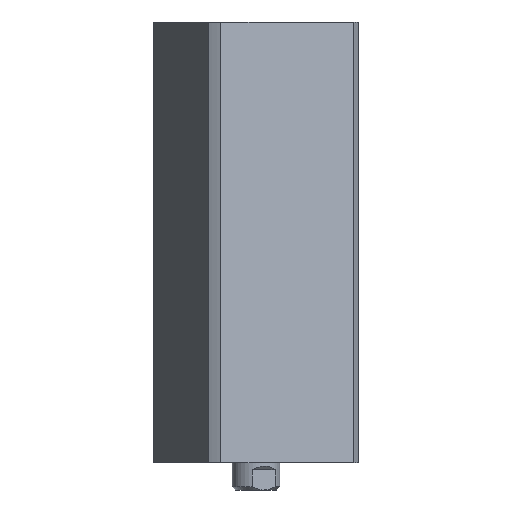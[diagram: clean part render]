
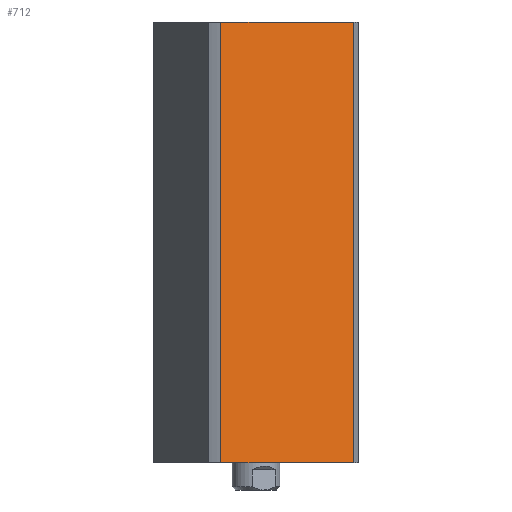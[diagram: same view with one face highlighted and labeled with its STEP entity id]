
A CAD part, left-side view. The second image highlights one B-rep face of the part: STEP entity #712.
In plain terms, the highlighted planar face has unit normal (-0.924, -0.383, 0) as drawn and (1, 0, 0) by its records, which use the part's own axes.
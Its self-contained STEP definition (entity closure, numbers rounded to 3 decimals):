
#65 = CARTESIAN_POINT ( 'NONE',  ( 24., 21.166, 130. ) ) ;
#394 = ORIENTED_EDGE ( 'NONE', *, *, #6870, .F. ) ;
#712 = ADVANCED_FACE ( 'NONE', ( #2501 ), #761, .F. ) ;
#761 = PLANE ( 'NONE',  #6750 ) ;
#1386 = CARTESIAN_POINT ( 'NONE',  ( 24., 24., 130. ) ) ;
#1767 = LINE ( 'NONE', #6475, #3434 ) ;
#1794 = DIRECTION ( 'NONE',  ( 0., 0., 1. ) ) ;
#1890 = VERTEX_POINT ( 'NONE', #2740 ) ;
#2020 = DIRECTION ( 'NONE',  ( 0., -1., 0. ) ) ;
#2501 = FACE_OUTER_BOUND ( 'NONE', #5632, .T. ) ;
#2740 = CARTESIAN_POINT ( 'NONE',  ( 24., 21.166, 0. ) ) ;
#2786 = DIRECTION ( 'NONE',  ( 0., 0., -1. ) ) ;
#2851 = LINE ( 'NONE', #5187, #4311 ) ;
#3058 = LINE ( 'NONE', #3537, #6154 ) ;
#3125 = EDGE_CURVE ( 'NONE', #6561, #1890, #1767, .T. ) ;
#3355 = EDGE_CURVE ( 'NONE', #6297, #1890, #2851, .T. ) ;
#3434 = VECTOR ( 'NONE', #2786, 1000. ) ;
#3537 = CARTESIAN_POINT ( 'NONE',  ( 24., 24., 130. ) ) ;
#3752 = ORIENTED_EDGE ( 'NONE', *, *, #3355, .T. ) ;
#4088 = LINE ( 'NONE', #7357, #5335 ) ;
#4166 = CARTESIAN_POINT ( 'NONE',  ( 24., -21.166, 130. ) ) ;
#4311 = VECTOR ( 'NONE', #4563, 1000. ) ;
#4563 = DIRECTION ( 'NONE',  ( 0., 1., 0. ) ) ;
#4986 = EDGE_CURVE ( 'NONE', #6297, #6871, #4088, .T. ) ;
#5187 = CARTESIAN_POINT ( 'NONE',  ( 24., 24., 0. ) ) ;
#5335 = VECTOR ( 'NONE', #1794, 1000. ) ;
#5392 = ORIENTED_EDGE ( 'NONE', *, *, #3125, .F. ) ;
#5632 = EDGE_LOOP ( 'NONE', ( #5773, #3752, #5392, #394 ) ) ;
#5730 = DIRECTION ( 'NONE',  ( -1., 0., 0. ) ) ;
#5773 = ORIENTED_EDGE ( 'NONE', *, *, #4986, .F. ) ;
#6154 = VECTOR ( 'NONE', #7205, 1000. ) ;
#6242 = CARTESIAN_POINT ( 'NONE',  ( 24., -21.166, 0. ) ) ;
#6297 = VERTEX_POINT ( 'NONE', #6242 ) ;
#6475 = CARTESIAN_POINT ( 'NONE',  ( 24., 21.166, -170. ) ) ;
#6561 = VERTEX_POINT ( 'NONE', #65 ) ;
#6750 = AXIS2_PLACEMENT_3D ( 'NONE', #1386, #5730, #2020 ) ;
#6870 = EDGE_CURVE ( 'NONE', #6871, #6561, #3058, .T. ) ;
#6871 = VERTEX_POINT ( 'NONE', #4166 ) ;
#7205 = DIRECTION ( 'NONE',  ( 0., 1., 0. ) ) ;
#7357 = CARTESIAN_POINT ( 'NONE',  ( 24., -21.166, -170. ) ) ;
